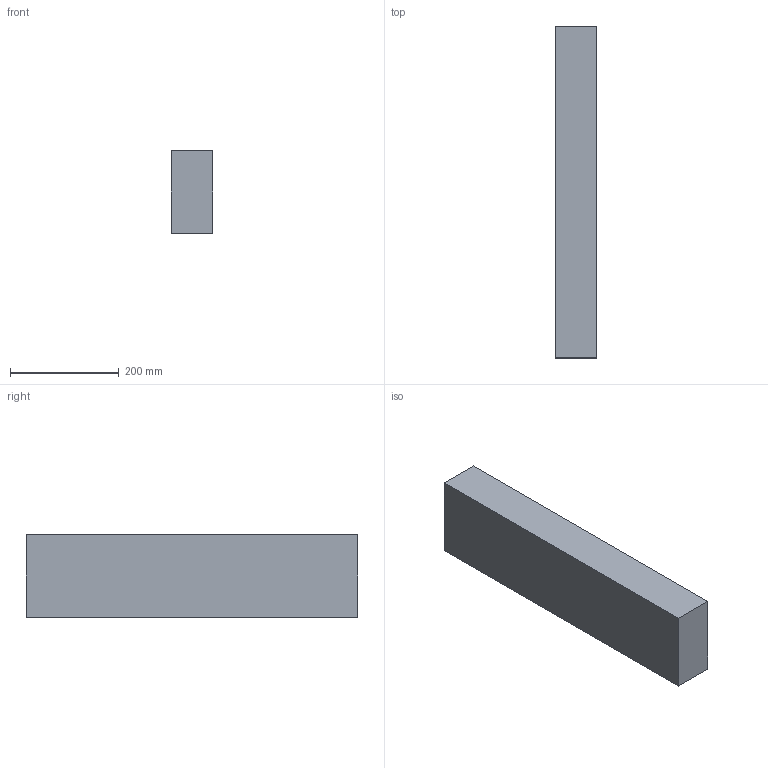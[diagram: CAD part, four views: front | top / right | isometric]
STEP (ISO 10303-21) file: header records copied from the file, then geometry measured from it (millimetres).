
FILE_DESCRIPTION(/* description */ (''),/* implementation_level */ '2;1');
FILE_NAME(/* name */ '3x6x24',/* time_stamp */ '2024-09-20T11:43:19-05:00',/* author */ (''),/* organization */ (''),/* preprocessor_version */ 'ST-DEVELOPER v19.2',/* originating_system */ 'Rhino 8.5',/* authorisation */ '');
FILE_SCHEMA (('CONFIG_CONTROL_DESIGN'));
Length unit declared in the file: inch
Products named in the file (1): Document
Bounding box: 76.2 x 609.6 x 152.4 mm (x, y, z)
Volume: 7079211.6 mm3; surface area: 301934.9 mm2
Topology: 1 solids, 1 shells, 6 faces, 12 edges, 8 vertices
Faces by surface type: plane 6
Entity records: 226 total; most frequent: CARTESIAN_POINT 40, ORIENTED_EDGE 24, EDGE_CURVE 12, B_SPLINE_CURVE_WITH_KNOTS 12, DIRECTION 10, VERTEX_POINT 8, AXIS2_PLACEMENT_3D 8, ORGANIZATION 7
